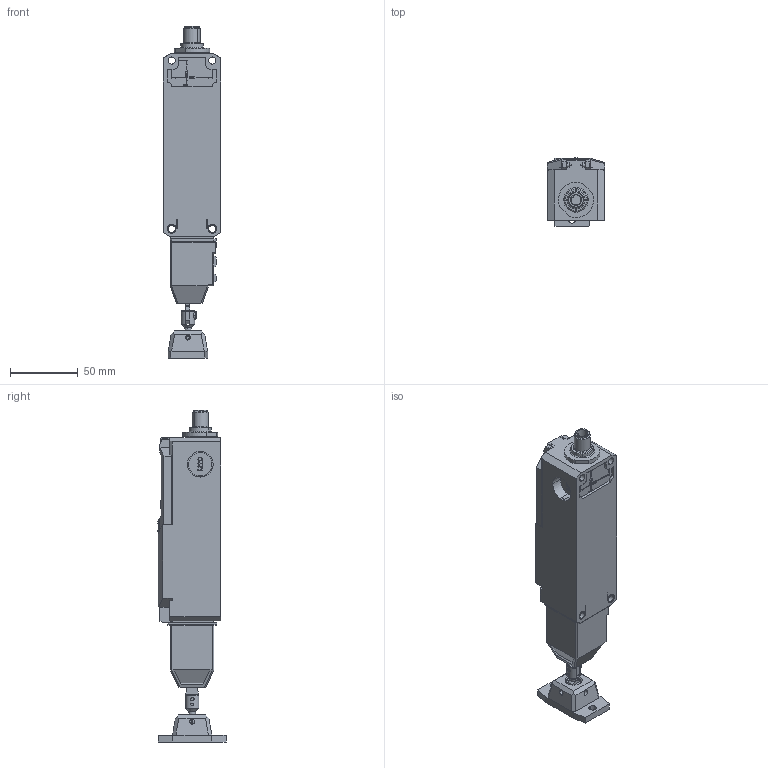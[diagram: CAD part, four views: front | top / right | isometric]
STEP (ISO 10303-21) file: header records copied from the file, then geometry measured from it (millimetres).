
FILE_DESCRIPTION((''),'2;1');
FILE_NAME('2028528_ASM','2019-08-09T',('merz'),(''),'PRO/ENGINEER BY PARAMETRIC TECHNOLOGY CORPORATION, 2016100','PRO/ENGINEER BY PARAMETRIC TECHNOLOGY CORPORATION, 2016100','');
FILE_SCHEMA(('AUTOMOTIVE_DESIGN { 1 0 10303 214 1 1 1 1 }'));
Products named in the file (4): 2028513; 2015386; 2015389; 2028528_ASM
Assembly tree (3 placements, depth 2):
  2028528_ASM
    2028513
    2015386
    2015389
Bounding box: 42.5 x 50.2 x 244.8 mm (x, y, z)
Volume: 257823.2 mm3; surface area: 79616.3 mm2
Topology: 4 solids, 6 shells, 1977 faces, 5548 edges, 3594 vertices
Faces by surface type: plane 1350, cylinder 442, torus 72, cone 61, sphere 29, bspline 23
Entity records: 88092 total; most frequent: CARTESIAN_POINT 15092, ORIENTED_EDGE 11014, DIRECTION 10426, PRESENTATION_STYLE_ASSIGNMENT 6022, STYLED_ITEM 5524, CURVE_STYLE 5520, EDGE_CURVE 5507, VECTOR 4064
